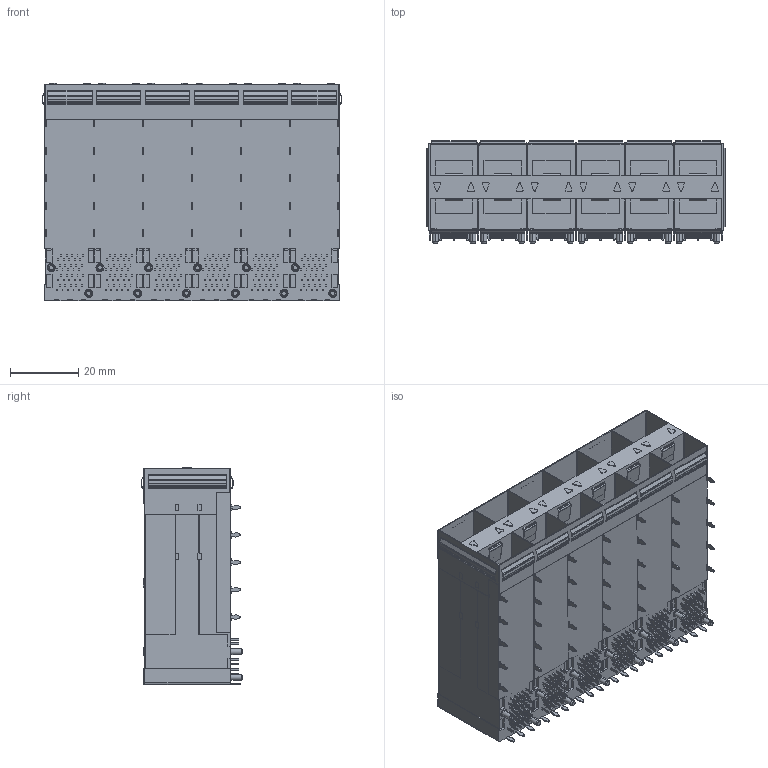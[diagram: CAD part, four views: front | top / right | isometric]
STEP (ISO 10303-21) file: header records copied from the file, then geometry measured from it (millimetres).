
FILE_DESCRIPTION (( 'STEP AP203' ), '1' );
FILE_NAME ('22603_SFP+ 2X6 俋絳嫖翐.STEP', '2024-06-05T00:36:17', ( '' ), ( '' ), 'SwSTEP 2.0', 'SolidWorks 2018', '' );
FILE_SCHEMA (( 'CONFIG_CONTROL_DESIGN' ));
Products named in the file (1): 22603_SFP+ 2X6 俋絳嫖翐
Bounding box: 87.56 x 29.78 x 63.5 mm (x, y, z)
Volume: 70099.4 mm3; surface area: 50049.1 mm2
Topology: 1 solids, 1 shells, 3175 faces, 8781 edges, 5954 vertices
Faces by surface type: plane 2353, cylinder 772, cone 48, sphere 2
Entity records: 101234 total; most frequent: CARTESIAN_POINT 17909, ORIENTED_EDGE 17558, DIRECTION 16727, EDGE_CURVE 8779, VECTOR 7183, LINE 7183, VERTEX_POINT 5954, AXIS2_PLACEMENT_3D 4772
